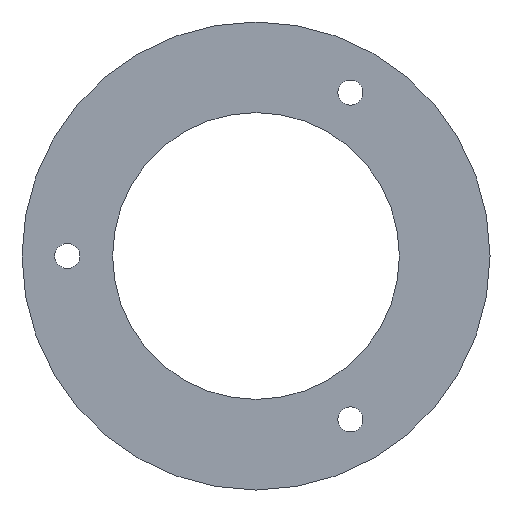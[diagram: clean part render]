
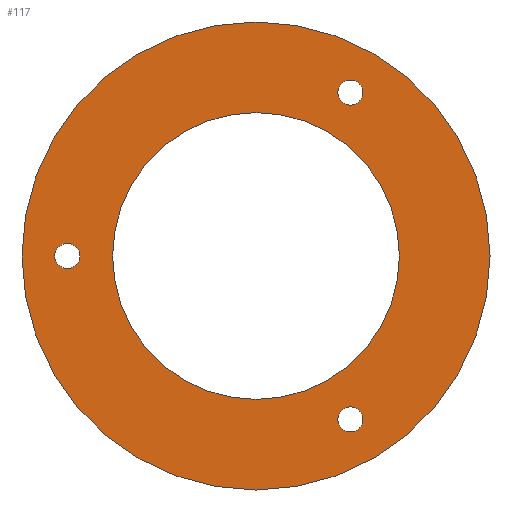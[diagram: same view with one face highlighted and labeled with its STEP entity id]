
A CAD part, front view. The second image highlights one B-rep face of the part: STEP entity #117.
In plain terms, the highlighted planar face has unit normal (0, -1, 0).
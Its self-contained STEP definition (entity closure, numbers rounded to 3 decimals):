
#15=PLANE('',#136);
#22=FACE_BOUND('',#48,.T.);
#23=FACE_BOUND('',#49,.T.);
#24=FACE_BOUND('',#50,.T.);
#25=FACE_BOUND('',#51,.T.);
#35=FACE_OUTER_BOUND('',#47,.T.);
#47=EDGE_LOOP('',(#97));
#48=EDGE_LOOP('',(#98));
#49=EDGE_LOOP('',(#99));
#50=EDGE_LOOP('',(#100));
#51=EDGE_LOOP('',(#101));
#57=CIRCLE('',#122,38.);
#59=CIRCLE('',#125,3.324);
#61=CIRCLE('',#128,3.324);
#63=CIRCLE('',#131,3.324);
#66=CIRCLE('',#135,62.);
#67=VERTEX_POINT('',#176);
#69=VERTEX_POINT('',#181);
#71=VERTEX_POINT('',#186);
#73=VERTEX_POINT('',#191);
#76=VERTEX_POINT('',#198);
#77=EDGE_CURVE('',#67,#67,#57,.T.);
#79=EDGE_CURVE('',#69,#69,#59,.T.);
#81=EDGE_CURVE('',#71,#71,#61,.T.);
#83=EDGE_CURVE('',#73,#73,#63,.T.);
#86=EDGE_CURVE('',#76,#76,#66,.T.);
#97=ORIENTED_EDGE('',*,*,#86,.T.);
#98=ORIENTED_EDGE('',*,*,#77,.T.);
#99=ORIENTED_EDGE('',*,*,#79,.T.);
#100=ORIENTED_EDGE('',*,*,#81,.T.);
#101=ORIENTED_EDGE('',*,*,#83,.T.);
#117=ADVANCED_FACE('',(#35,#22,#23,#24,#25),#15,.F.);
#122=AXIS2_PLACEMENT_3D('',#177,#142,#143);
#125=AXIS2_PLACEMENT_3D('',#182,#148,#149);
#128=AXIS2_PLACEMENT_3D('',#187,#154,#155);
#131=AXIS2_PLACEMENT_3D('',#192,#160,#161);
#135=AXIS2_PLACEMENT_3D('',#199,#168,#169);
#136=AXIS2_PLACEMENT_3D('',#200,#170,#171);
#142=DIRECTION('center_axis',(0.,1.,0.));
#143=DIRECTION('ref_axis',(-1.,0.,0.));
#148=DIRECTION('center_axis',(0.,1.,0.));
#149=DIRECTION('ref_axis',(-0.5,0.,0.866));
#154=DIRECTION('center_axis',(0.,1.,0.));
#155=DIRECTION('ref_axis',(-0.5,0.,-0.866));
#160=DIRECTION('center_axis',(0.,1.,0.));
#161=DIRECTION('ref_axis',(1.,0.,0.));
#168=DIRECTION('center_axis',(0.,-1.,0.));
#169=DIRECTION('ref_axis',(1.,0.,0.));
#170=DIRECTION('center_axis',(0.,1.,0.));
#171=DIRECTION('ref_axis',(0.,0.,1.));
#176=CARTESIAN_POINT('',(38.,0.,0.));
#177=CARTESIAN_POINT('Origin',(0.,0.,0.));
#181=CARTESIAN_POINT('',(26.662,0.,-46.18));
#182=CARTESIAN_POINT('Origin',(25.,0.,-43.301));
#186=CARTESIAN_POINT('',(26.662,0.,46.18));
#187=CARTESIAN_POINT('Origin',(25.,0.,43.301));
#191=CARTESIAN_POINT('',(-53.324,0.,0.));
#192=CARTESIAN_POINT('Origin',(-50.,0.,0.));
#198=CARTESIAN_POINT('',(-62.,0.,0.));
#199=CARTESIAN_POINT('Origin',(0.,0.,0.));
#200=CARTESIAN_POINT('Origin',(0.,0.,0.));
